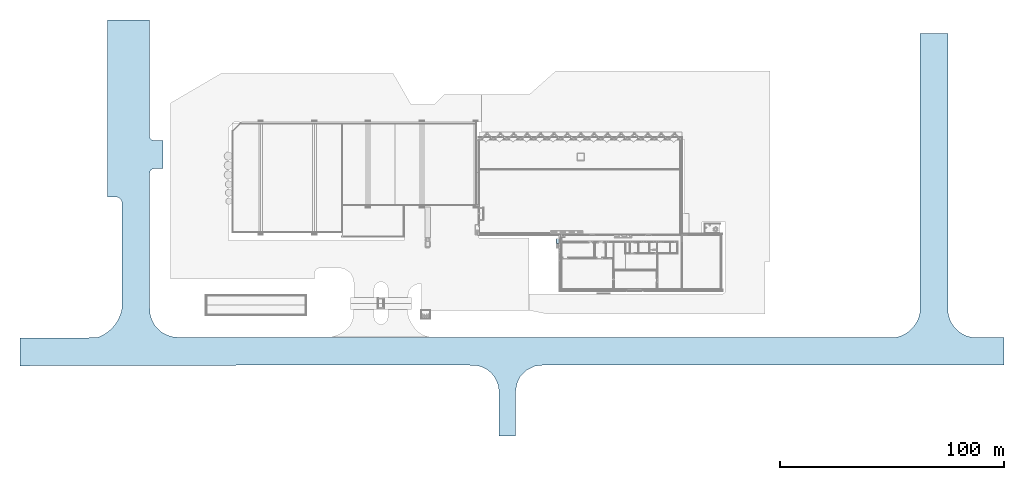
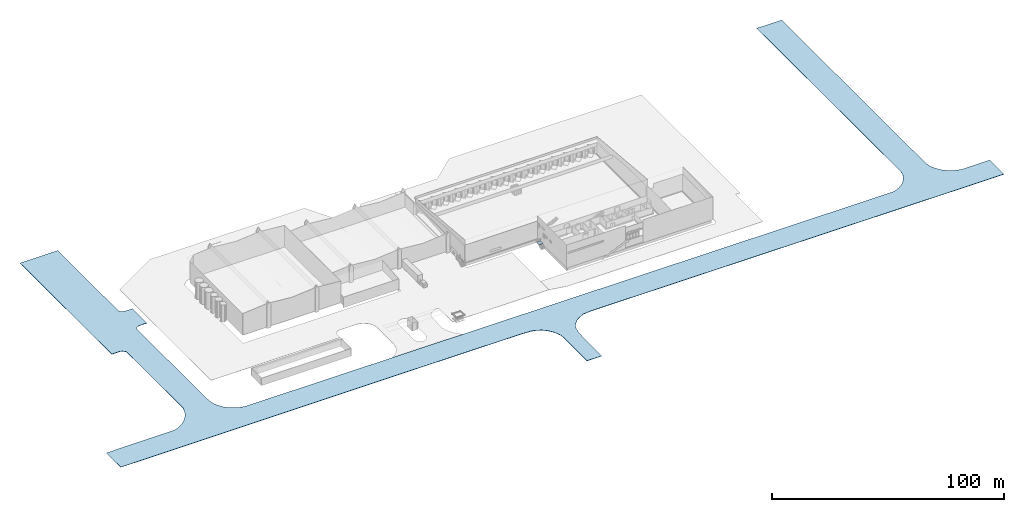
# One storey, part 12 of 64: 2 slabs.
"""IFC2X3 building model written with IfcOpenShell, lengths in millimetres."""

from ifc_helpers import new_model, entity, si_unit, converted_unit, derived_unit, direction, frame, frame_2d, origin, place, context, subcontext, project, spatial, polyline, circle_curve, parameter, trimmed, segment, composite_curve, rectangle, outline, extrude, material, layer, layer_set, layer_usage, element, save


model = new_model("IFC2X3")

# Units and contexts
model_context = context("Model", 3, precision=0.01, world=origin(), true_north=direction((4.05803320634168e-15, -1.0)))
body_context = subcontext(model_context, "Body", "Model", "MODEL_VIEW")
ifc_project = project(units=[si_unit("LENGTHUNIT", "METRE", prefix="MILLI"), si_unit("AREAUNIT", "SQUARE_METRE"), si_unit("VOLUMEUNIT", "CUBIC_METRE"), converted_unit("PLANEANGLEUNIT", "DEGREE", entity("IfcRatioMeasure", 0.0174532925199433), si_unit("PLANEANGLEUNIT", "RADIAN"), dimensions=[0, 0, 0, 0, 0, 0, 0]), si_unit("MASSUNIT", "GRAM", prefix="KILO"), derived_unit("MASSDENSITYUNIT", [(si_unit("MASSUNIT", "GRAM", prefix="KILO"), 1), (si_unit("LENGTHUNIT", "METRE"), -3)]), si_unit("TIMEUNIT", "SECOND"), si_unit("FREQUENCYUNIT", "HERTZ"), si_unit("THERMODYNAMICTEMPERATUREUNIT", "DEGREE_CELSIUS"), derived_unit("THERMALTRANSMITTANCEUNIT", [(si_unit("MASSUNIT", "GRAM", prefix="KILO"), 1), (si_unit("THERMODYNAMICTEMPERATUREUNIT", "KELVIN"), -1), (si_unit("TIMEUNIT", "SECOND"), -3)]), derived_unit("VOLUMETRICFLOWRATEUNIT", [(si_unit("LENGTHUNIT", "METRE"), 3), (si_unit("TIMEUNIT", "SECOND"), -1)]), si_unit("ELECTRICCURRENTUNIT", "AMPERE"), si_unit("ELECTRICVOLTAGEUNIT", "VOLT"), si_unit("POWERUNIT", "WATT"), si_unit("FORCEUNIT", "NEWTON", prefix="KILO"), si_unit("ILLUMINANCEUNIT", "LUX"), si_unit("LUMINOUSFLUXUNIT", "LUMEN"), si_unit("LUMINOUSINTENSITYUNIT", "CANDELA"), derived_unit("USERDEFINED", [(si_unit("MASSUNIT", "GRAM", prefix="KILO"), -1), (si_unit("LENGTHUNIT", "METRE"), -2), (si_unit("TIMEUNIT", "SECOND"), 3), (si_unit("LUMINOUSFLUXUNIT", "LUMEN"), 1)]), derived_unit("LINEARVELOCITYUNIT", [(si_unit("LENGTHUNIT", "METRE"), 1), (si_unit("TIMEUNIT", "SECOND"), -1)]), si_unit("PRESSUREUNIT", "PASCAL"), derived_unit("USERDEFINED", [(si_unit("LENGTHUNIT", "METRE"), -2), (si_unit("MASSUNIT", "GRAM", prefix="KILO"), 1), (si_unit("TIMEUNIT", "SECOND"), -2)])], contexts=[model_context])

# Site, building, storey
site_placement = place(None, frame((927466.849349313, 583801.882853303, 0.0), z_axis=(0.0, 0.0, 1.0), x_axis=(-1.0, 0.0, 0.0)))
site = spatial("IfcSite", under=ifc_project, at=site_placement, Name="Surface", CompositionType="ELEMENT")
building_placement = place(site_placement, origin())
building = spatial("IfcBuilding", under=site, at=building_placement, CompositionType="ELEMENT")
storey_placement = place(building_placement, frame((0.0, 0.0, 44170.0)))
storey = spatial("IfcBuildingStorey", under=building, at=storey_placement, Name="Ground FFL", CompositionType="ELEMENT", Elevation=44170.0)

# Slabs
ifc_material_1 = material(Name="tar")
ifc_layer_1 = layer(ifc_material_1, 150.0)
ifc_layer_set_1 = layer_set([ifc_layer_1], Name="Floor:tar")
ifc_layer_usage_1 = layer_usage(ifc_layer_set_1, "AXIS3", "POSITIVE", 0.0)
slab_1_placement = place(storey_placement, origin())
element("IfcSlab", 1, at=slab_1_placement, inside=storey, material=ifc_layer_usage_1, Name="Floor:tar", ObjectType="Floor:tar", PredefinedType="FLOOR", context=body_context, shape_type="SweptSolid", body=[
    extrude(outline(composite_curve([segment(polyline([(19130.645379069, -263629.942564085), (31373.9596937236, -263629.942564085)]), True, "CONTINUOUS"), segment(polyline([(31373.9596937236, -263629.942564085), (31356.6698489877, -58152.7312718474)]), True, "CONTINUOUS"), segment(polyline([(31356.6698489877, -58152.7312718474), (31767.5016327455, -54176.1652601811)]), True, "CONTINUOUS"), segment(polyline([(31767.5016327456, -54176.1652601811), (33583.849873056, -50543.8789180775)]), True, "CONTINUOUS"), segment(polyline([(33583.8498730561, -50543.8789180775), (34179.1335725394, -49753.4022791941)]), True, "CONTINUOUS"), segment(polyline([(34179.1335725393, -49753.4022791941), (35794.2405569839, -48269.0002350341)]), True, "CONTINUOUS"), segment(polyline([(35794.2405569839, -48269.0002350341), (36581.9340716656, -47519.2109796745)]), True, "CONTINUOUS"), segment(polyline([(36581.9340716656, -47519.2109796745), (38934.9775500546, -46295.8179980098)]), True, "CONTINUOUS"), segment(polyline([(38934.9775500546, -46295.8179980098), (42339.4644977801, -45560.0689758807)]), True, "CONTINUOUS"), segment(polyline([(42339.4644977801, -45560.0689758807), (47220.523201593, -45387.579107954)]), True, "CONTINUOUS"), segment(polyline([(47220.523201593, -45387.5791079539), (62956.1530961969, -45387.5791079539)]), True, "CONTINUOUS"), segment(polyline([(62956.1530961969, -45387.5791079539), (62956.1530961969, -38022.596614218)]), True, "CONTINUOUS"), segment(polyline([(62956.1530961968, -38022.596614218), (42403.4478649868, -37994.5781703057)]), True, "CONTINUOUS"), segment(polyline([(42403.4478649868, -37994.5781703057), (40402.7346108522, -37735.7723080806)]), True, "CONTINUOUS"), segment(polyline([(40402.7346108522, -37735.7723080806), (38111.9181962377, -36815.8695117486)]), True, "CONTINUOUS"), segment(polyline([(38111.9181962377, -36815.8695117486), (37213.1645861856, -36353.7364695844)]), True, "CONTINUOUS"), segment(polyline([(37213.1645861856, -36353.7364695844), (35587.3977261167, -35159.7422833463)]), True, "CONTINUOUS"), segment(polyline([(35587.3977261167, -35159.7422833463), (34735.5642485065, -34446.4529127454)]), True, "CONTINUOUS"), segment(polyline([(34735.5642485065, -34446.4529127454), (33450.6941621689, -32870.5249761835)]), True, "CONTINUOUS"), segment(polyline([(33450.6941621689, -32870.5249761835), (32930.6778473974, -31961.1581457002)]), True, "CONTINUOUS"), segment(polyline([(32930.6778473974, -31961.1581457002), (32071.7620214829, -30063.4896804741)]), True, "CONTINUOUS"), segment(polyline([(32071.7620214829, -30063.4896804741), (31604.4131017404, -28133.8625176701)]), True, "CONTINUOUS"), segment(polyline([(31604.4131017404, -28133.8625176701), (31353.1234426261, -23541.5691355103)]), True, "CONTINUOUS"), segment(polyline([(31353.1234426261, -23541.5691355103), (31334.7957816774, 34592.3868720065)]), True, "CONTINUOUS"), segment(polyline([(31334.7957816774, 34592.3868720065), (31677.5882929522, 175885.918764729)]), True, "CONTINUOUS"), segment(polyline([(31677.5882929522, 175885.918764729), (19323.38156388, 175885.918764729)]), True, "CONTINUOUS"), segment(polyline([(19323.38156388, 175885.918764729), (19142.472704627, 141628.973790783)]), True, "CONTINUOUS"), segment(trimmed(circle_curve(frame_2d((3207.58234540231, 146853.752331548), x_axis=(0.950225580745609, -0.311562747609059)), 16769.5868035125), [parameter(299.007555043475)], [parameter(0.0)], True, "PARAMETER"), False, "CONTINUOUS"), segment(polyline([(6365.44792396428, 130384.176546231), (-41634.5520760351, 130384.176546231)]), True, "CONTINUOUS"), segment(trimmed(circle_curve(frame_2d((-40840.6988107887, 133160.471919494), x_axis=(-0.274921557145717, -0.961466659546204)), 2887.56281426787), [parameter(289.914679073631)], [parameter(0.0)], True, "PARAMETER"), False, "CONTINUOUS"), segment(polyline([(-43721.3768437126, 132961.190518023), (-43678.3886712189, 136790.719823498)]), True, "CONTINUOUS"), segment(polyline([(-43678.3886712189, 136790.719823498), (-122766.681386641, 136790.719823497)]), True, "CONTINUOUS"), segment(polyline([(-122766.681386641, 136790.719823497), (-122766.681386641, 118028.395290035)]), True, "CONTINUOUS"), segment(polyline([(-122766.681386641, 118028.395290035), (-70920.1888249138, 118028.395290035)]), True, "CONTINUOUS"), segment(polyline([(-70920.1888249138, 118028.395290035), (-70349.7936985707, 117925.851186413)]), True, "CONTINUOUS"), segment(polyline([(-70349.7936985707, 117925.851186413), (-69750.8442948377, 117604.901292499)]), True, "CONTINUOUS"), segment(polyline([(-69750.8442948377, 117604.901292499), (-69232.5105529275, 117044.785196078)]), True, "CONTINUOUS"), segment(polyline([(-69232.5105529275, 117044.785196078), (-68901.0800344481, 116127.029162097)]), True, "CONTINUOUS"), segment(polyline([(-68901.0800344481, 116127.029162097), (-68921.1107085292, 112041.072593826)]), True, "CONTINUOUS"), segment(polyline([(-68921.1107085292, 112041.072593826), (-56422.4868442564, 112041.072593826)]), True, "CONTINUOUS"), segment(polyline([(-56422.4868442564, 112041.072593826), (-56377.0396931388, 116089.655889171)]), True, "CONTINUOUS"), segment(polyline([(-56377.0396931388, 116089.655889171), (-56224.4680226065, 116753.109973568)]), True, "CONTINUOUS"), segment(polyline([(-56224.4680226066, 116753.109973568), (-55710.4907963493, 117460.645007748)]), True, "CONTINUOUS"), segment(polyline([(-55710.4907963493, 117460.645007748), (-55230.1782200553, 117782.620962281)]), True, "CONTINUOUS"), segment(polyline([(-55230.1782200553, 117782.620962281), (-54201.5737583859, 117998.601312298)]), True, "CONTINUOUS"), segment(polyline([(-54201.5737583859, 117998.601312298), (5383.16001638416, 117998.601312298)]), True, "CONTINUOUS"), segment(polyline([(5383.16001638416, 117998.601312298), (8731.31792710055, 117705.675451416)]), True, "CONTINUOUS"), segment(trimmed(circle_curve(frame_2d((6328.170816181, 105320.714688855), x_axis=(0.190484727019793, 0.981690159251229)), 12615.9569247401), [parameter(282.595021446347)], [parameter(0.0)], True, "PARAMETER"), False, "CONTINUOUS"), segment(polyline([(18939.1228434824, 105676.042835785), (18939.1228434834, -215698.135545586)]), True, "CONTINUOUS"), segment(trimmed(circle_curve(frame_2d((5528.95755839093, -212517.783055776), x_axis=(0.973010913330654, -0.230759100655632)), 13782.132452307), [parameter(291.143683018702)], [parameter(0.0)], True, "PARAMETER"), False, "CONTINUOUS"), segment(polyline([(7399.86410655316, -226172.338472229), (-116778.523069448, -226172.33847223)]), True, "CONTINUOUS"), segment(polyline([(-116778.523069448, -226172.33847223), (-116778.523069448, -238572.33847223)]), True, "CONTINUOUS"), segment(polyline([(-116778.523069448, -238572.33847223), (6814.29393934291, -238572.338472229)]), True, "CONTINUOUS"), segment(trimmed(circle_curve(frame_2d((6255.83154880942, -251459.373613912), x_axis=(0.0432945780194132, 0.999062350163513)), 12899.1300088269), [parameter(275.999999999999)], [parameter(0.0)], True, "PARAMETER"), False, "CONTINUOUS"), segment(polyline([(19130.645379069, -250667.714709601), (19130.6453790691, -263629.942564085)]), True, "CONTINUOUS")], self_intersect=False)), frame((-15548.2169911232, 38729.3552472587, 0.0), z_axis=(0.0, 0.0, -1.0), x_axis=(0.0, 1.0, 0.0)), (0.0, 0.0, 1.0), 150.000000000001),
])
ifc_material_2 = material(Name="cocn slab")
ifc_layer_2 = layer(ifc_material_2, 200.0)
ifc_layer_set_2 = layer_set([ifc_layer_2], Name="Floor:Generic 150mm")
ifc_layer_usage_2 = layer_usage(ifc_layer_set_2, "AXIS3", "POSITIVE", 0.0)
slab_2_placement = place(storey_placement, frame((-81347.9372768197, 7332.08571852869, -200.0)))
element("IfcSlab", 2, at=slab_2_placement, inside=storey, material=ifc_layer_usage_2, Name="Floor:Generic 150mm:2", ObjectType="Floor:Generic 150mm", PredefinedType="FLOOR", context=body_context, shape_type="SweptSolid", body=[
    extrude(rectangle(XDim=2250.0, YDim=2159.99999999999, at=frame_2d((18074.4474735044, 3137.69230408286), x_axis=(0.0, -1.0))), frame((19154.4474735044, 4262.69230408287, 200.0), z_axis=(0.0, 0.0, -1.0), x_axis=(-1.0, 0.0, 0.0)), (0.0, 0.0, 1.0), 199.999999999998),
])

save(model, "model.ifc")
